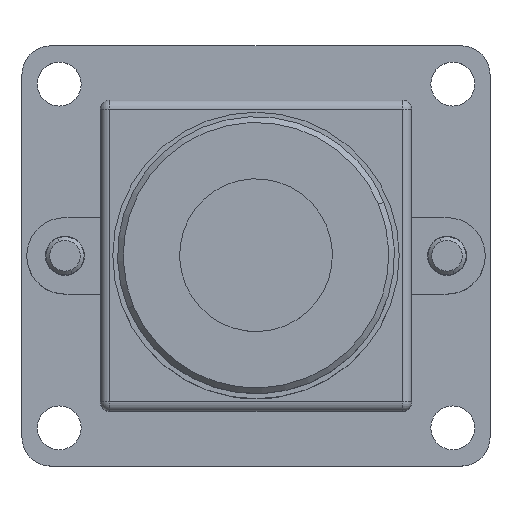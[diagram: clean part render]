
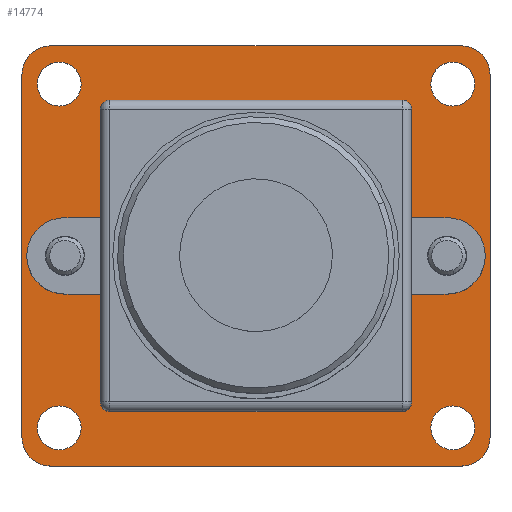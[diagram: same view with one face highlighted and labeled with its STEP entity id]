
A CAD part, top view. The second image highlights one B-rep face of the part: STEP entity #14774.
In plain terms, the highlighted planar face has unit normal (0, 0, 1).
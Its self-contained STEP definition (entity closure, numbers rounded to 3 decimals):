
#14248=CARTESIAN_POINT('',(7.781,-11.804,
-20.86));
#14249=DIRECTION('',(0.,0.,1.));
#14250=DIRECTION('',(-1.,0.001,0.));
#14251=AXIS2_PLACEMENT_3D('',#14248,#14249,#14250);
#14253=DIRECTION('',(0.,-1.,0.));
#14254=VECTOR('',#14253,19.);
#14255=CARTESIAN_POINT('',(6.283,7.197,
-20.86));
#14256=LINE('',#14255,#14254);
#14257=CARTESIAN_POINT('',(7.781,7.198,
-20.86));
#14258=DIRECTION('',(0.,0.,1.));
#14259=DIRECTION('',(0.001,1.,0.));
#14260=AXIS2_PLACEMENT_3D('',#14257,#14258,#14259);
#14262=DIRECTION('',(-1.,0.,0.));
#14263=VECTOR('',#14262,21.5);
#14264=CARTESIAN_POINT('',(29.283,8.697,
-20.86));
#14265=LINE('',#14264,#14263);
#14266=CARTESIAN_POINT('',(29.284,7.198,
-20.86));
#14267=DIRECTION('',(0.,0.,1.));
#14268=DIRECTION('',(1.,-0.002,0.));
#14269=AXIS2_PLACEMENT_3D('',#14266,#14267,#14268);
#14271=DIRECTION('',(0.,1.,0.));
#14272=VECTOR('',#14271,18.998);
#14273=CARTESIAN_POINT('',(30.783,-11.803,
-20.86));
#14274=LINE('',#14273,#14272);
#14275=CARTESIAN_POINT('',(29.284,-11.804,
-20.86));
#14276=DIRECTION('',(0.,0.,1.));
#14277=DIRECTION('',(-0.001,-1.,0.));
#14278=AXIS2_PLACEMENT_3D('',#14275,#14276,#14277);
#14280=DIRECTION('',(1.,0.,0.));
#14281=VECTOR('',#14280,21.5);
#14282=CARTESIAN_POINT('',(7.783,-13.303,
-20.86));
#14283=LINE('',#14282,#14281);
#14284=CARTESIAN_POINT('',(28.833,6.697,
-20.86));
#14285=DIRECTION('',(0.,0.,-1.));
#14286=DIRECTION('',(1.,0.,0.));
#14287=AXIS2_PLACEMENT_3D('',#14284,#14285,#14286);
#14289=CARTESIAN_POINT('',(28.833,6.697,
-20.86));
#14290=DIRECTION('',(0.,0.,-1.));
#14291=DIRECTION('',(-1.,0.,0.));
#14292=AXIS2_PLACEMENT_3D('',#14289,#14290,#14291);
#14294=CARTESIAN_POINT('',(28.533,-2.303,
-20.86));
#14295=DIRECTION('',(0.,0.,1.));
#14296=DIRECTION('',(-1.,0.,0.));
#14297=AXIS2_PLACEMENT_3D('',#14294,#14295,#14296);
#14299=CARTESIAN_POINT('',(28.533,-2.303,
-20.86));
#14300=DIRECTION('',(0.,0.,1.));
#14301=DIRECTION('',(1.,0.,0.));
#14302=AXIS2_PLACEMENT_3D('',#14299,#14300,#14301);
#14304=CARTESIAN_POINT('',(28.833,-11.303,
-20.86));
#14305=DIRECTION('',(0.,0.,-1.));
#14306=DIRECTION('',(1.,0.,0.));
#14307=AXIS2_PLACEMENT_3D('',#14304,#14305,#14306);
#14309=CARTESIAN_POINT('',(28.833,-11.303,
-20.86));
#14310=DIRECTION('',(0.,0.,-1.));
#14311=DIRECTION('',(-1.,0.,0.));
#14312=AXIS2_PLACEMENT_3D('',#14309,#14310,#14311);
#14314=CARTESIAN_POINT('',(8.533,-2.303,
-20.86));
#14315=DIRECTION('',(0.,0.,1.));
#14316=DIRECTION('',(-1.,0.,0.));
#14317=AXIS2_PLACEMENT_3D('',#14314,#14315,#14316);
#14319=CARTESIAN_POINT('',(8.533,-2.303,
-20.86));
#14320=DIRECTION('',(0.,0.,1.));
#14321=DIRECTION('',(1.,0.,0.));
#14322=AXIS2_PLACEMENT_3D('',#14319,#14320,#14321);
#14324=CARTESIAN_POINT('',(8.233,6.697,
-20.86));
#14325=DIRECTION('',(0.,0.,-1.));
#14326=DIRECTION('',(1.,0.,0.));
#14327=AXIS2_PLACEMENT_3D('',#14324,#14325,#14326);
#14329=CARTESIAN_POINT('',(8.233,6.697,
-20.86));
#14330=DIRECTION('',(0.,0.,-1.));
#14331=DIRECTION('',(-1.,0.,0.));
#14332=AXIS2_PLACEMENT_3D('',#14329,#14330,#14331);
#14334=CARTESIAN_POINT('',(8.233,-11.303,
-20.86));
#14335=DIRECTION('',(0.,0.,-1.));
#14336=DIRECTION('',(1.,0.,0.));
#14337=AXIS2_PLACEMENT_3D('',#14334,#14335,#14336);
#14339=CARTESIAN_POINT('',(8.233,-11.303,
-20.86));
#14340=DIRECTION('',(0.,0.,-1.));
#14341=DIRECTION('',(-1.,0.,0.));
#14342=AXIS2_PLACEMENT_3D('',#14339,#14340,#14341);
#14368=CARTESIAN_POINT('',(29.283,-13.303,
-20.86));
#14369=CARTESIAN_POINT('',(30.783,-11.803,
-20.86));
#14370=VERTEX_POINT('',#14368);
#14371=VERTEX_POINT('',#14369);
#14372=CARTESIAN_POINT('',(7.783,8.697,
-20.86));
#14373=CARTESIAN_POINT('',(6.283,7.197,
-20.86));
#14374=VERTEX_POINT('',#14372);
#14375=VERTEX_POINT('',#14373);
#14377=CARTESIAN_POINT('',(29.283,8.697,
-20.86));
#14379=VERTEX_POINT('',#14377);
#14386=CARTESIAN_POINT('',(30.783,7.195,
-20.86));
#14388=VERTEX_POINT('',#14386);
#14394=CARTESIAN_POINT('',(6.283,-11.803,
-20.86));
#14395=VERTEX_POINT('',#14394);
#14398=CARTESIAN_POINT('',(7.783,-13.303,
-20.86));
#14399=VERTEX_POINT('',#14398);
#14400=CARTESIAN_POINT('',(9.383,-11.303,
-20.86));
#14402=VERTEX_POINT('',#14400);
#14404=CARTESIAN_POINT('',(7.083,-11.303,
-20.86));
#14406=VERTEX_POINT('',#14404);
#14408=CARTESIAN_POINT('',(29.983,6.697,
-20.86));
#14410=VERTEX_POINT('',#14408);
#14412=CARTESIAN_POINT('',(27.683,6.697,
-20.86));
#14414=VERTEX_POINT('',#14412);
#14416=CARTESIAN_POINT('',(29.983,-11.303,
-20.86));
#14418=VERTEX_POINT('',#14416);
#14420=CARTESIAN_POINT('',(27.683,-11.303,
-20.86));
#14422=VERTEX_POINT('',#14420);
#14424=CARTESIAN_POINT('',(9.383,6.697,
-20.86));
#14426=VERTEX_POINT('',#14424);
#14428=CARTESIAN_POINT('',(7.083,6.697,
-20.86));
#14430=VERTEX_POINT('',#14428);
#14436=CARTESIAN_POINT('',(29.633,-2.303,
-20.86));
#14437=CARTESIAN_POINT('',(27.433,-2.303,
-20.86));
#14438=VERTEX_POINT('',#14436);
#14439=VERTEX_POINT('',#14437);
#14444=CARTESIAN_POINT('',(9.633,-2.303,
-20.86));
#14445=CARTESIAN_POINT('',(7.433,-2.303,
-20.86));
#14446=VERTEX_POINT('',#14444);
#14447=VERTEX_POINT('',#14445);
#14725=CARTESIAN_POINT('',(18.533,-2.303,
-20.86));
#14726=DIRECTION('',(0.,0.,-1.));
#14727=DIRECTION('',(0.,-1.,0.));
#14728=AXIS2_PLACEMENT_3D('',#14725,#14726,#14727);
#14729=PLANE('',#14728);
#14730=ORIENTED_EDGE('',*,*,#14591,.F.);
#14731=ORIENTED_EDGE('',*,*,#14569,.F.);
#14732=ORIENTED_EDGE('',*,*,#14547,.F.);
#14733=ORIENTED_EDGE('',*,*,#14525,.F.);
#14734=ORIENTED_EDGE('',*,*,#14503,.F.);
#14735=ORIENTED_EDGE('',*,*,#14481,.F.);
#14736=ORIENTED_EDGE('',*,*,#14459,.F.);
#14737=ORIENTED_EDGE('',*,*,#14612,.F.);
#14738=EDGE_LOOP('',(#14730,#14731,#14732,#14733,#14734,#14735,#14736,#14737));
#14739=FACE_OUTER_BOUND('',#14738,.F.);
#14740=ORIENTED_EDGE('',*,*,#14712,.F.);
#14741=ORIENTED_EDGE('',*,*,#14691,.F.);
#14742=EDGE_LOOP('',(#14740,#14741));
#14743=FACE_BOUND('',#14742,.F.);
#14745=ORIENTED_EDGE('',*,*,#14744,.T.);
#14747=ORIENTED_EDGE('',*,*,#14746,.T.);
#14748=EDGE_LOOP('',(#14745,#14747));
#14749=FACE_BOUND('',#14748,.F.);
#14751=ORIENTED_EDGE('',*,*,#14750,.F.);
#14753=ORIENTED_EDGE('',*,*,#14752,.F.);
#14754=EDGE_LOOP('',(#14751,#14753));
#14755=FACE_BOUND('',#14754,.F.);
#14757=ORIENTED_EDGE('',*,*,#14756,.T.);
#14759=ORIENTED_EDGE('',*,*,#14758,.T.);
#14760=EDGE_LOOP('',(#14757,#14759));
#14761=FACE_BOUND('',#14760,.F.);
#14763=ORIENTED_EDGE('',*,*,#14762,.F.);
#14765=ORIENTED_EDGE('',*,*,#14764,.F.);
#14766=EDGE_LOOP('',(#14763,#14765));
#14767=FACE_BOUND('',#14766,.F.);
#14769=ORIENTED_EDGE('',*,*,#14768,.F.);
#14771=ORIENTED_EDGE('',*,*,#14770,.F.);
#14772=EDGE_LOOP('',(#14769,#14771));
#14773=FACE_BOUND('',#14772,.F.);
#14252=CIRCLE('',#14251,1.499);
#14261=CIRCLE('',#14260,1.499);
#14270=CIRCLE('',#14269,1.499);
#14279=CIRCLE('',#14278,1.499);
#14288=CIRCLE('',#14287,1.15);
#14293=CIRCLE('',#14292,1.15);
#14298=CIRCLE('',#14297,1.1);
#14303=CIRCLE('',#14302,1.1);
#14308=CIRCLE('',#14307,1.15);
#14313=CIRCLE('',#14312,1.15);
#14318=CIRCLE('',#14317,1.1);
#14323=CIRCLE('',#14322,1.1);
#14328=CIRCLE('',#14327,1.15);
#14333=CIRCLE('',#14332,1.15);
#14338=CIRCLE('',#14337,1.15);
#14343=CIRCLE('',#14342,1.15);
#14459=EDGE_CURVE('',#14370,#14371,#14279,.T.);
#14481=EDGE_CURVE('',#14371,#14388,#14274,.T.);
#14503=EDGE_CURVE('',#14388,#14379,#14270,.T.);
#14525=EDGE_CURVE('',#14379,#14374,#14265,.T.);
#14547=EDGE_CURVE('',#14374,#14375,#14261,.T.);
#14569=EDGE_CURVE('',#14375,#14395,#14256,.T.);
#14591=EDGE_CURVE('',#14395,#14399,#14252,.T.);
#14612=EDGE_CURVE('',#14399,#14370,#14283,.T.);
#14691=EDGE_CURVE('',#14414,#14410,#14293,.T.);
#14712=EDGE_CURVE('',#14410,#14414,#14288,.T.);
#14744=EDGE_CURVE('',#14439,#14438,#14298,.T.);
#14746=EDGE_CURVE('',#14438,#14439,#14303,.T.);
#14750=EDGE_CURVE('',#14418,#14422,#14308,.T.);
#14752=EDGE_CURVE('',#14422,#14418,#14313,.T.);
#14756=EDGE_CURVE('',#14447,#14446,#14318,.T.);
#14758=EDGE_CURVE('',#14446,#14447,#14323,.T.);
#14762=EDGE_CURVE('',#14426,#14430,#14328,.T.);
#14764=EDGE_CURVE('',#14430,#14426,#14333,.T.);
#14768=EDGE_CURVE('',#14402,#14406,#14338,.T.);
#14770=EDGE_CURVE('',#14406,#14402,#14343,.T.);
#14774=ADVANCED_FACE('',(#14739,#14743,#14749,#14755,#14761,#14767,#14773),
#14729,.F.);
